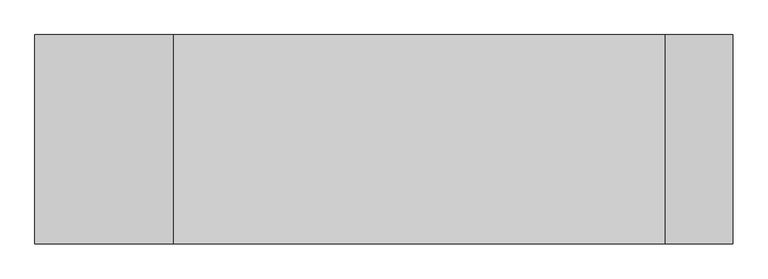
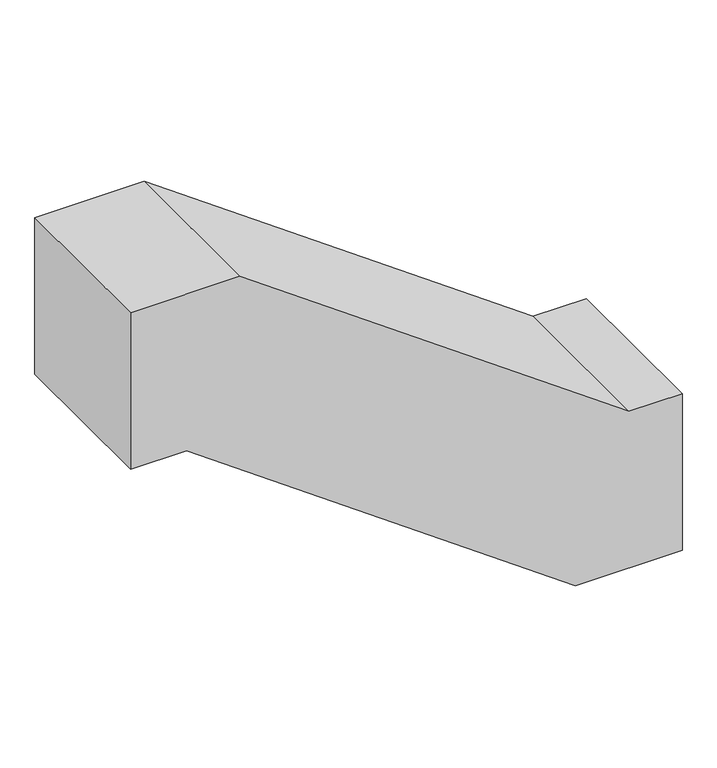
"""IFC4 building model written with IfcOpenShell, lengths in millimetres: duct fitting geometry, BL_УткаВоздуховодов_Прямоугольная : BL_УткаВоздуховодов_Прямоугольная."""

from ifc_helpers import new_model, si_unit, frame, origin, place, context, project, spatial, polyline, outline, extrude, source, transform, mapped, element, save


def duct_fitting_baa2d342(model_context):
    return source(origin(), model_context, "Body", "SweptSolid", [
        extrude(outline(polyline([(150.0, 0.0), (-150.0, 0.0), (-150.0, 101.7994324), (-655.113589, 806.5994324), (-655.113589, 1000.0), (-355.113589, 1000.0), (-355.113589, 903.0005676), (150.0, 198.2005676), (150.0, 0.0)])), frame((0.0, -150.0, 0.0), z_axis=(0.0, 1.0, 0.0), x_axis=(0.0, 0.0, 1.0)), (0.0, 0.0, 1.0), 300.0),
    ])


if __name__ == "__main__":
    model = new_model("IFC4")
    model_context = context("Model", 3, world=origin())
    ifc_project = project(units=[si_unit("LENGTHUNIT", "METRE", prefix="MILLI")], contexts=[model_context])
    site = spatial("IfcSite", under=ifc_project)
    building = spatial("IfcBuilding", under=site)
    placement = place(None, origin())
    duct_fitting_shape = duct_fitting_baa2d342(model_context)
    element("IfcDuctFitting", 1, ObjectType="BL_УткаВоздуховодов_Прямоугольная : BL_УткаВоздуховодов_Прямоугольная", at=placement, inside=building, context=model_context, shape_type="MappedRepresentation", body=[
        mapped(duct_fitting_shape, transform((0.0, 0.0, 0.0), x_axis=(1.0, 0.0, 0.0), y_axis=(0.0, 1.0, 0.0), z_axis=(0.0, 0.0, 1.0))),
    ])
    save(model, "model.ifc")
